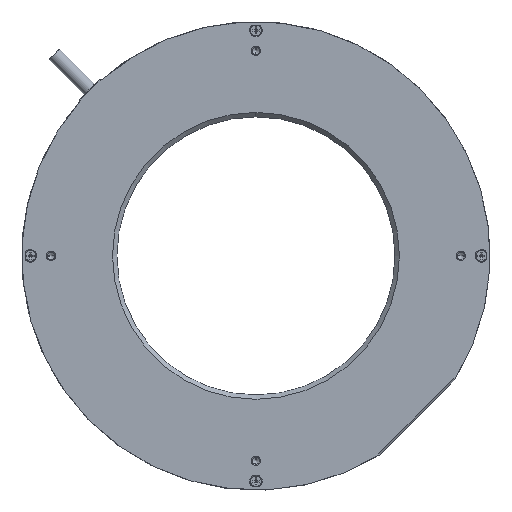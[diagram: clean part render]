
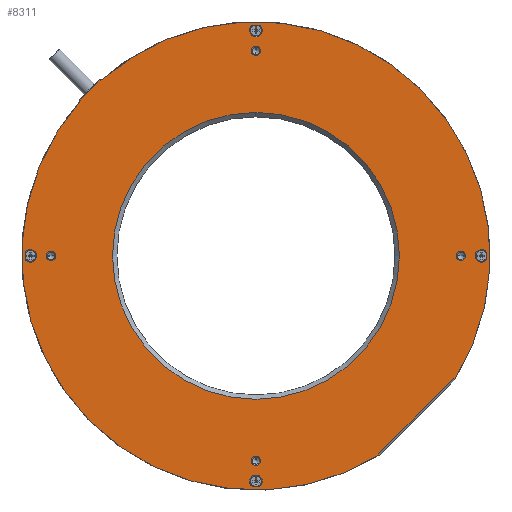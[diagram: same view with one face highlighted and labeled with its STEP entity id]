
A CAD part, top view. The second image highlights one B-rep face of the part: STEP entity #8311.
In plain terms, the highlighted planar face has unit normal (0, 0, 1).
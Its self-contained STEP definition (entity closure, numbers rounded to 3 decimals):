
#2100=CARTESIAN_POINT('',(-53.073,59.861,3.));
#2102=DIRECTION('',(0.707,-0.707,0.));
#2103=VECTOR('',#2102,0.344);
#2104=CARTESIAN_POINT('',(-53.316,60.104,3.));
#2105=LINE('',#2104,#2103);
#2110=CARTESIAN_POINT('',(0.,0.,3.));
#2111=DIRECTION('',(0.,0.,1.));
#2112=DIRECTION('',(-0.748,0.663,0.));
#2113=AXIS2_PLACEMENT_3D('',#2110,#2111,#2112);
#2115=CARTESIAN_POINT('',(0.,0.,3.));
#2116=DIRECTION('',(0.,0.,1.));
#2117=DIRECTION('',(0.848,-0.53,0.));
#2118=AXIS2_PLACEMENT_3D('',#2115,#2116,#2117);
#2120=DIRECTION('',(0.707,-0.707,0.));
#2121=VECTOR('',#2120,0.6);
#2122=CARTESIAN_POINT('',(67.422,-41.966,3.));
#2123=LINE('',#2122,#2121);
#2124=DIRECTION('',(0.707,0.707,0.));
#2125=VECTOR('',#2124,36.);
#2126=CARTESIAN_POINT('',(41.966,-67.422,3.));
#2127=LINE('',#2126,#2125);
#2128=DIRECTION('',(-0.707,0.707,0.));
#2129=VECTOR('',#2128,0.6);
#2130=CARTESIAN_POINT('',(42.39,-67.846,3.));
#2131=LINE('',#2130,#2129);
#2132=CARTESIAN_POINT('',(0.,0.,3.));
#2133=DIRECTION('',(0.,0.,-1.));
#2134=DIRECTION('',(-1.,-0.015,0.));
#2135=AXIS2_PLACEMENT_3D('',#2132,#2133,#2134);
#2137=CARTESIAN_POINT('',(0.,0.,3.));
#2138=DIRECTION('',(0.,0.,-1.));
#2139=DIRECTION('',(-0.015,1.,0.));
#2140=AXIS2_PLACEMENT_3D('',#2137,#2138,#2139);
#2142=CARTESIAN_POINT('',(0.,0.,3.));
#2143=DIRECTION('',(0.,0.,-1.));
#2144=DIRECTION('',(0.,-1.,0.));
#2145=AXIS2_PLACEMENT_3D('',#2142,#2143,#2144);
#2147=CARTESIAN_POINT('',(0.,0.,3.));
#2148=DIRECTION('',(0.,0.,-1.));
#2149=DIRECTION('',(0.,1.,0.));
#2150=AXIS2_PLACEMENT_3D('',#2147,#2148,#2149);
#2152=CARTESIAN_POINT('',(0.,-70.,3.));
#2153=DIRECTION('',(0.,0.,-1.));
#2154=DIRECTION('',(0.,1.,0.));
#2155=AXIS2_PLACEMENT_3D('',#2152,#2153,#2154);
#2157=CARTESIAN_POINT('',(0.,-70.,3.));
#2158=DIRECTION('',(0.,0.,-1.));
#2159=DIRECTION('',(0.,-1.,0.));
#2160=AXIS2_PLACEMENT_3D('',#2157,#2158,#2159);
#2162=CARTESIAN_POINT('',(-70.,0.,3.));
#2163=DIRECTION('',(0.,0.,-1.));
#2164=DIRECTION('',(1.,0.,0.));
#2165=AXIS2_PLACEMENT_3D('',#2162,#2163,#2164);
#2167=CARTESIAN_POINT('',(-70.,0.,3.));
#2168=DIRECTION('',(0.,0.,-1.));
#2169=DIRECTION('',(-1.,0.,0.));
#2170=AXIS2_PLACEMENT_3D('',#2167,#2168,#2169);
#2172=CARTESIAN_POINT('',(0.,70.,3.));
#2173=DIRECTION('',(0.,0.,-1.));
#2174=DIRECTION('',(0.,-1.,0.));
#2175=AXIS2_PLACEMENT_3D('',#2172,#2173,#2174);
#2177=CARTESIAN_POINT('',(0.,70.,3.));
#2178=DIRECTION('',(0.,0.,-1.));
#2179=DIRECTION('',(0.,1.,0.));
#2180=AXIS2_PLACEMENT_3D('',#2177,#2178,#2179);
#2182=CARTESIAN_POINT('',(70.,0.,3.));
#2183=DIRECTION('',(0.,0.,-1.));
#2184=DIRECTION('',(-1.,0.,0.));
#2185=AXIS2_PLACEMENT_3D('',#2182,#2183,#2184);
#2187=CARTESIAN_POINT('',(70.,0.,3.));
#2188=DIRECTION('',(0.,0.,-1.));
#2189=DIRECTION('',(1.,0.,0.));
#2190=AXIS2_PLACEMENT_3D('',#2187,#2188,#2189);
#2192=CARTESIAN_POINT('',(0.,0.,3.));
#2193=DIRECTION('',(0.,0.,-1.));
#2194=DIRECTION('',(1.,0.015,0.));
#2195=AXIS2_PLACEMENT_3D('',#2192,#2193,#2194);
#2197=CARTESIAN_POINT('',(-59.861,53.073,3.));
#2218=DIRECTION('',(-0.707,0.707,0.));
#2219=VECTOR('',#2218,0.344);
#2220=CARTESIAN_POINT('',(-59.861,53.073,3.));
#2221=LINE('',#2220,#2219);
#2237=DIRECTION('',(0.707,0.707,0.));
#2238=VECTOR('',#2237,9.6);
#2239=CARTESIAN_POINT('',(-60.104,53.316,3.));
#2240=LINE('',#2239,#2238);
#2434=CARTESIAN_POINT('',(0.,0.,3.));
#2435=DIRECTION('',(0.,0.,-1.));
#2436=DIRECTION('',(0.015,-1.,0.));
#2437=AXIS2_PLACEMENT_3D('',#2434,#2435,#2436);
#2444=CARTESIAN_POINT('',(1.189,78.791,3.));
#2454=CARTESIAN_POINT('',(0.,77.,3.));
#2455=DIRECTION('',(0.,0.,-1.));
#2456=DIRECTION('',(0.553,0.833,0.));
#2457=AXIS2_PLACEMENT_3D('',#2454,#2455,#2456);
#2467=CARTESIAN_POINT('',(-1.189,78.791,3.));
#2768=CARTESIAN_POINT('',(78.791,-1.189,3.));
#2778=CARTESIAN_POINT('',(77.,0.,3.));
#2779=DIRECTION('',(0.,0.,-1.));
#2780=DIRECTION('',(0.833,-0.553,0.));
#2781=AXIS2_PLACEMENT_3D('',#2778,#2779,#2780);
#2791=CARTESIAN_POINT('',(78.791,1.189,3.));
#3092=CARTESIAN_POINT('',(-78.791,1.189,3.));
#3102=CARTESIAN_POINT('',(-77.,0.,3.));
#3103=DIRECTION('',(0.,0.,-1.));
#3104=DIRECTION('',(-0.833,0.553,0.));
#3105=AXIS2_PLACEMENT_3D('',#3102,#3103,#3104);
#3115=CARTESIAN_POINT('',(-78.791,-1.189,3.));
#3654=CARTESIAN_POINT('',(1.189,-78.791,3.));
#3656=CARTESIAN_POINT('',(-1.189,-78.791,3.));
#3666=CARTESIAN_POINT('',(0.,-77.,3.));
#3667=DIRECTION('',(0.,0.,-1.));
#3668=DIRECTION('',(-0.553,-0.833,0.));
#3669=AXIS2_PLACEMENT_3D('',#3666,#3667,#3668);
#4640=CARTESIAN_POINT('',(71.6,0.,3.));
#4641=CARTESIAN_POINT('',(68.4,0.,3.));
#4642=VERTEX_POINT('',#4640);
#4643=VERTEX_POINT('',#4641);
#4644=CARTESIAN_POINT('',(0.,71.6,3.));
#4645=CARTESIAN_POINT('',(0.,68.4,3.));
#4646=VERTEX_POINT('',#4644);
#4647=VERTEX_POINT('',#4645);
#4648=CARTESIAN_POINT('',(-71.6,0.,3.));
#4649=CARTESIAN_POINT('',(-68.4,0.,3.));
#4650=VERTEX_POINT('',#4648);
#4651=VERTEX_POINT('',#4649);
#4652=CARTESIAN_POINT('',(0.,-71.6,3.));
#4653=CARTESIAN_POINT('',(0.,-68.4,3.));
#4654=VERTEX_POINT('',#4652);
#4655=VERTEX_POINT('',#4653);
#4656=CARTESIAN_POINT('',(0.,49.,3.));
#4657=CARTESIAN_POINT('',(0.,-49.,3.));
#4658=VERTEX_POINT('',#4656);
#4659=VERTEX_POINT('',#4657);
#5376=CARTESIAN_POINT('',(-53.316,60.104,3.));
#5377=VERTEX_POINT('',#5376);
#5378=CARTESIAN_POINT('',(-60.104,53.316,3.));
#5379=VERTEX_POINT('',#5378);
#5522=CARTESIAN_POINT('',(67.422,-41.966,3.));
#5523=VERTEX_POINT('',#5522);
#5524=CARTESIAN_POINT('',(41.966,-67.422,3.));
#5525=VERTEX_POINT('',#5524);
#5542=VERTEX_POINT('',#3092);
#5545=VERTEX_POINT('',#3115);
#5547=VERTEX_POINT('',#3654);
#5548=VERTEX_POINT('',#3656);
#5550=VERTEX_POINT('',#2768);
#5553=VERTEX_POINT('',#2791);
#5554=VERTEX_POINT('',#2444);
#5557=VERTEX_POINT('',#2467);
#5579=VERTEX_POINT('',#2100);
#5580=VERTEX_POINT('',#2197);
#5598=CARTESIAN_POINT('',(67.846,-42.39,3.));
#5599=VERTEX_POINT('',#5598);
#5600=CARTESIAN_POINT('',(42.39,-67.846,3.));
#5601=VERTEX_POINT('',#5600);
#8239=CARTESIAN_POINT('',(0.,0.,3.));
#8240=DIRECTION('',(0.,0.,1.));
#8241=DIRECTION('',(0.,1.,0.));
#8242=AXIS2_PLACEMENT_3D('',#8239,#8240,#8241);
#8243=PLANE('',#8242);
#8244=ORIENTED_EDGE('',*,*,#8122,.F.);
#8246=ORIENTED_EDGE('',*,*,#8245,.T.);
#8248=ORIENTED_EDGE('',*,*,#8247,.T.);
#8249=ORIENTED_EDGE('',*,*,#8231,.T.);
#8250=ORIENTED_EDGE('',*,*,#8137,.F.);
#8251=ORIENTED_EDGE('',*,*,#8056,.F.);
#8252=ORIENTED_EDGE('',*,*,#8090,.F.);
#8254=ORIENTED_EDGE('',*,*,#8253,.F.);
#8255=EDGE_LOOP('',(#8244,#8246,#8248,#8249,#8250,#8251,#8252,#8254));
#8256=FACE_OUTER_BOUND('',#8255,.F.);
#8258=ORIENTED_EDGE('',*,*,#8257,.F.);
#8260=ORIENTED_EDGE('',*,*,#8259,.F.);
#8261=EDGE_LOOP('',(#8258,#8260));
#8262=FACE_BOUND('',#8261,.F.);
#8264=ORIENTED_EDGE('',*,*,#8263,.F.);
#8266=ORIENTED_EDGE('',*,*,#8265,.F.);
#8267=EDGE_LOOP('',(#8264,#8266));
#8268=FACE_BOUND('',#8267,.F.);
#8270=ORIENTED_EDGE('',*,*,#8269,.F.);
#8272=ORIENTED_EDGE('',*,*,#8271,.F.);
#8273=EDGE_LOOP('',(#8270,#8272));
#8274=FACE_BOUND('',#8273,.F.);
#8276=ORIENTED_EDGE('',*,*,#8275,.F.);
#8278=ORIENTED_EDGE('',*,*,#8277,.F.);
#8279=EDGE_LOOP('',(#8276,#8278));
#8280=FACE_BOUND('',#8279,.F.);
#8282=ORIENTED_EDGE('',*,*,#8281,.F.);
#8284=ORIENTED_EDGE('',*,*,#8283,.F.);
#8285=EDGE_LOOP('',(#8282,#8284));
#8286=FACE_BOUND('',#8285,.F.);
#8288=ORIENTED_EDGE('',*,*,#8287,.F.);
#8290=ORIENTED_EDGE('',*,*,#8289,.F.);
#8291=EDGE_LOOP('',(#8288,#8290));
#8292=FACE_BOUND('',#8291,.F.);
#8294=ORIENTED_EDGE('',*,*,#8293,.F.);
#8296=ORIENTED_EDGE('',*,*,#8295,.F.);
#8297=EDGE_LOOP('',(#8294,#8296));
#8298=FACE_BOUND('',#8297,.F.);
#8300=ORIENTED_EDGE('',*,*,#8299,.F.);
#8302=ORIENTED_EDGE('',*,*,#8301,.F.);
#8303=EDGE_LOOP('',(#8300,#8302));
#8304=FACE_BOUND('',#8303,.F.);
#8306=ORIENTED_EDGE('',*,*,#8305,.F.);
#8308=ORIENTED_EDGE('',*,*,#8307,.F.);
#8309=EDGE_LOOP('',(#8306,#8308));
#8310=FACE_BOUND('',#8309,.F.);
#8311=ADVANCED_FACE('',(#8256,#8262,#8268,#8274,#8280,#8286,#8292,#8298,#8304,
#8310),#8243,.T.);
#2114=CIRCLE('',#2113,80.);
#2119=CIRCLE('',#2118,80.);
#2136=CIRCLE('',#2135,78.8);
#2141=CIRCLE('',#2140,78.8);
#2146=CIRCLE('',#2145,49.);
#2151=CIRCLE('',#2150,49.);
#2156=CIRCLE('',#2155,1.6);
#2161=CIRCLE('',#2160,1.6);
#2166=CIRCLE('',#2165,1.6);
#2171=CIRCLE('',#2170,1.6);
#2176=CIRCLE('',#2175,1.6);
#2181=CIRCLE('',#2180,1.6);
#2186=CIRCLE('',#2185,1.6);
#2191=CIRCLE('',#2190,1.6);
#2196=CIRCLE('',#2195,78.8);
#2438=CIRCLE('',#2437,78.8);
#2458=CIRCLE('',#2457,2.15);
#2782=CIRCLE('',#2781,2.15);
#3106=CIRCLE('',#3105,2.15);
#3670=CIRCLE('',#3669,2.15);
#8056=EDGE_CURVE('',#5523,#5599,#2123,.T.);
#8090=EDGE_CURVE('',#5525,#5523,#2127,.T.);
#8122=EDGE_CURVE('',#5580,#5601,#2114,.T.);
#8137=EDGE_CURVE('',#5599,#5579,#2119,.T.);
#8231=EDGE_CURVE('',#5377,#5579,#2105,.T.);
#8245=EDGE_CURVE('',#5580,#5379,#2221,.T.);
#8247=EDGE_CURVE('',#5379,#5377,#2240,.T.);
#8253=EDGE_CURVE('',#5601,#5525,#2131,.T.);
#8257=EDGE_CURVE('',#5548,#5547,#3670,.T.);
#8259=EDGE_CURVE('',#5547,#5548,#2438,.T.);
#8263=EDGE_CURVE('',#5542,#5545,#3106,.T.);
#8265=EDGE_CURVE('',#5545,#5542,#2136,.T.);
#8269=EDGE_CURVE('',#5554,#5557,#2458,.T.);
#8271=EDGE_CURVE('',#5557,#5554,#2141,.T.);
#8275=EDGE_CURVE('',#4659,#4658,#2146,.T.);
#8277=EDGE_CURVE('',#4658,#4659,#2151,.T.);
#8281=EDGE_CURVE('',#4655,#4654,#2156,.T.);
#8283=EDGE_CURVE('',#4654,#4655,#2161,.T.);
#8287=EDGE_CURVE('',#4651,#4650,#2166,.T.);
#8289=EDGE_CURVE('',#4650,#4651,#2171,.T.);
#8293=EDGE_CURVE('',#4647,#4646,#2176,.T.);
#8295=EDGE_CURVE('',#4646,#4647,#2181,.T.);
#8299=EDGE_CURVE('',#4643,#4642,#2186,.T.);
#8301=EDGE_CURVE('',#4642,#4643,#2191,.T.);
#8305=EDGE_CURVE('',#5550,#5553,#2782,.T.);
#8307=EDGE_CURVE('',#5553,#5550,#2196,.T.);
